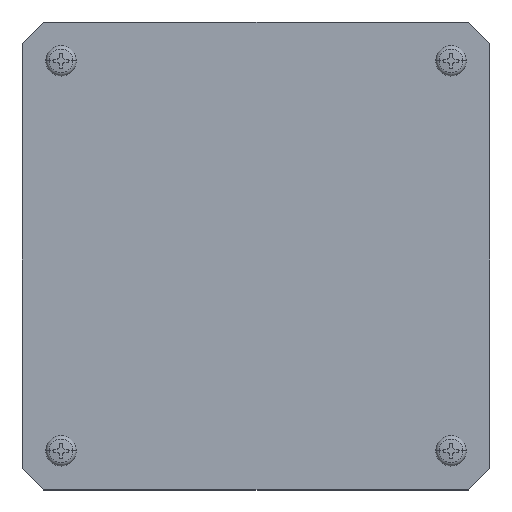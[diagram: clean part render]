
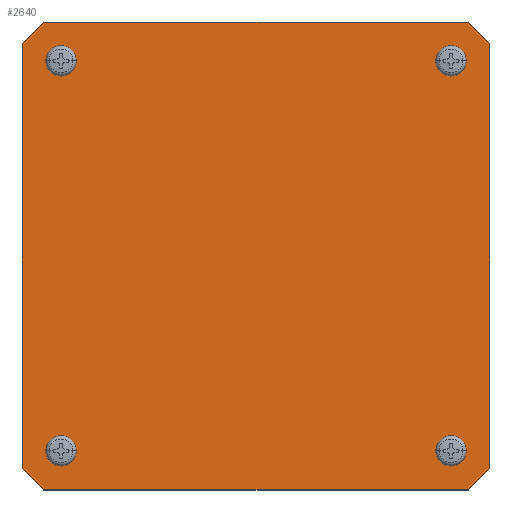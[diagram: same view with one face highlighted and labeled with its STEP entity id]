
A CAD part, top view. The second image highlights one B-rep face of the part: STEP entity #2640.
In plain terms, the highlighted planar face has unit normal (0, 0, 1).
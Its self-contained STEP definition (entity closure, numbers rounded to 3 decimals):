
#1330=CARTESIAN_POINT('',(0.,0.,1.6));
#1340=DIRECTION('',(0.,0.,1.));
#1350=DIRECTION('',(1.,0.,0.));
#1360=AXIS2_PLACEMENT_3D('',#1330,#1340,#1350);
#1370=PLANE('',#1360);
#1380=CARTESIAN_POINT('',(-56.879,91.647,1.6));
#1390=DIRECTION('',(0.,1.,0.));
#1400=VECTOR('',#1390,1.);
#1410=LINE('',#1380,#1400);
#1420=CARTESIAN_POINT('',(-56.879,91.647,1.6));
#1430=VERTEX_POINT('',#1420);
#1440=CARTESIAN_POINT('',(-56.879,189.647,1.6));
#1450=VERTEX_POINT('',#1440);
#1460=EDGE_CURVE('',#1430,#1450,#1410,.T.);
#1470=ORIENTED_EDGE('',*,*,#1460,.F.);
#1480=CARTESIAN_POINT('',(-56.879,189.647,1.6));
#1490=DIRECTION('',(0.707,0.707,0.));
#1500=VECTOR('',#1490,1.);
#1510=LINE('',#1480,#1500);
#1520=CARTESIAN_POINT('',(-51.879,194.647,1.6));
#1530=VERTEX_POINT('',#1520);
#1540=EDGE_CURVE('',#1450,#1530,#1510,.T.);
#1550=ORIENTED_EDGE('',*,*,#1540,.F.);
#1560=CARTESIAN_POINT('',(-51.879,194.647,1.6));
#1570=DIRECTION('',(1.,0.,0.));
#1580=VECTOR('',#1570,1.);
#1590=LINE('',#1560,#1580);
#1600=CARTESIAN_POINT('',(46.121,194.647,1.6));
#1610=VERTEX_POINT('',#1600);
#1620=EDGE_CURVE('',#1530,#1610,#1590,.T.);
#1630=ORIENTED_EDGE('',*,*,#1620,.F.);
#1640=CARTESIAN_POINT('',(46.121,194.647,1.6));
#1650=DIRECTION('',(0.707,-0.707,0.));
#1660=VECTOR('',#1650,1.);
#1670=LINE('',#1640,#1660);
#1680=CARTESIAN_POINT('',(51.121,189.647,1.6));
#1690=VERTEX_POINT('',#1680);
#1700=EDGE_CURVE('',#1610,#1690,#1670,.T.);
#1710=ORIENTED_EDGE('',*,*,#1700,.F.);
#1720=CARTESIAN_POINT('',(51.121,189.647,1.6));
#1730=DIRECTION('',(0.,-1.,0.));
#1740=VECTOR('',#1730,1.);
#1750=LINE('',#1720,#1740);
#1760=CARTESIAN_POINT('',(51.121,91.647,1.6));
#1770=VERTEX_POINT('',#1760);
#1780=EDGE_CURVE('',#1690,#1770,#1750,.T.);
#1790=ORIENTED_EDGE('',*,*,#1780,.F.);
#1800=CARTESIAN_POINT('',(51.121,91.647,1.6));
#1810=DIRECTION('',(-0.707,-0.707,0.));
#1820=VECTOR('',#1810,1.);
#1830=LINE('',#1800,#1820);
#1840=CARTESIAN_POINT('',(46.121,86.647,1.6));
#1850=VERTEX_POINT('',#1840);
#1860=EDGE_CURVE('',#1770,#1850,#1830,.T.);
#1870=ORIENTED_EDGE('',*,*,#1860,.F.);
#1880=CARTESIAN_POINT('',(46.121,86.647,1.6));
#1890=DIRECTION('',(-1.,0.,0.));
#1900=VECTOR('',#1890,1.);
#1910=LINE('',#1880,#1900);
#1920=CARTESIAN_POINT('',(-51.879,86.647,1.6));
#1930=VERTEX_POINT('',#1920);
#1940=EDGE_CURVE('',#1850,#1930,#1910,.T.);
#1950=ORIENTED_EDGE('',*,*,#1940,.F.);
#1960=CARTESIAN_POINT('',(-51.879,86.647,1.6));
#1970=DIRECTION('',(-0.707,0.707,0.));
#1980=VECTOR('',#1970,1.);
#1990=LINE('',#1960,#1980);
#2000=EDGE_CURVE('',#1930,#1430,#1990,.T.);
#2010=ORIENTED_EDGE('',*,*,#2000,.F.);
#2020=EDGE_LOOP('',(#2010,#1950,#1870,#1790,#1710,#1630,#1550,#1470));
#2030=FACE_OUTER_BOUND('',#2020,.T.);
#2040=CARTESIAN_POINT('',(-47.879,185.647,1.6));
#2050=DIRECTION('',(0.,0.,1.));
#2060=DIRECTION('',(1.,0.,0.));
#2070=AXIS2_PLACEMENT_3D('',#2040,#2050,#2060);
#2080=CIRCLE('',#2070,1.75);
#2090=CARTESIAN_POINT('',(-46.129,185.647,1.6));
#2100=VERTEX_POINT('',#2090);
#2110=CARTESIAN_POINT('',(-49.629,185.647,1.6));
#2120=VERTEX_POINT('',#2110);
#2130=EDGE_CURVE('',#2100,#2120,#2080,.T.);
#2140=ORIENTED_EDGE('',*,*,#2130,.F.);
#2150=EDGE_CURVE('',#2120,#2100,#2080,.T.);
#2160=ORIENTED_EDGE('',*,*,#2150,.F.);
#2170=EDGE_LOOP('',(#2160,#2140));
#2180=FACE_BOUND('',#2170,.T.);
#2190=CARTESIAN_POINT('',(-47.879,95.647,1.6));
#2200=DIRECTION('',(0.,0.,1.));
#2210=DIRECTION('',(1.,0.,0.));
#2220=AXIS2_PLACEMENT_3D('',#2190,#2200,#2210);
#2230=CIRCLE('',#2220,1.75);
#2240=CARTESIAN_POINT('',(-46.129,95.647,1.6));
#2250=VERTEX_POINT('',#2240);
#2260=CARTESIAN_POINT('',(-49.629,95.647,1.6));
#2270=VERTEX_POINT('',#2260);
#2280=EDGE_CURVE('',#2250,#2270,#2230,.T.);
#2290=ORIENTED_EDGE('',*,*,#2280,.F.);
#2300=EDGE_CURVE('',#2270,#2250,#2230,.T.);
#2310=ORIENTED_EDGE('',*,*,#2300,.F.);
#2320=EDGE_LOOP('',(#2310,#2290));
#2330=FACE_BOUND('',#2320,.T.);
#2340=CARTESIAN_POINT('',(42.121,95.647,1.6));
#2350=DIRECTION('',(0.,0.,1.));
#2360=DIRECTION('',(1.,0.,0.));
#2370=AXIS2_PLACEMENT_3D('',#2340,#2350,#2360);
#2380=CIRCLE('',#2370,1.75);
#2390=CARTESIAN_POINT('',(43.871,95.647,1.6));
#2400=VERTEX_POINT('',#2390);
#2410=CARTESIAN_POINT('',(40.371,95.647,1.6));
#2420=VERTEX_POINT('',#2410);
#2430=EDGE_CURVE('',#2400,#2420,#2380,.T.);
#2440=ORIENTED_EDGE('',*,*,#2430,.F.);
#2450=EDGE_CURVE('',#2420,#2400,#2380,.T.);
#2460=ORIENTED_EDGE('',*,*,#2450,.F.);
#2470=EDGE_LOOP('',(#2460,#2440));
#2480=FACE_BOUND('',#2470,.T.);
#2490=CARTESIAN_POINT('',(42.121,185.647,1.6));
#2500=DIRECTION('',(0.,0.,1.));
#2510=DIRECTION('',(1.,0.,0.));
#2520=AXIS2_PLACEMENT_3D('',#2490,#2500,#2510);
#2530=CIRCLE('',#2520,1.75);
#2540=CARTESIAN_POINT('',(43.871,185.647,1.6));
#2550=VERTEX_POINT('',#2540);
#2560=CARTESIAN_POINT('',(40.371,185.647,1.6));
#2570=VERTEX_POINT('',#2560);
#2580=EDGE_CURVE('',#2550,#2570,#2530,.T.);
#2590=ORIENTED_EDGE('',*,*,#2580,.F.);
#2600=EDGE_CURVE('',#2570,#2550,#2530,.T.);
#2610=ORIENTED_EDGE('',*,*,#2600,.F.);
#2620=EDGE_LOOP('',(#2610,#2590));
#2630=FACE_BOUND('',#2620,.T.);
#2640=ADVANCED_FACE('',(#2030,#2180,#2330,#2480,#2630),#1370,.T.);
